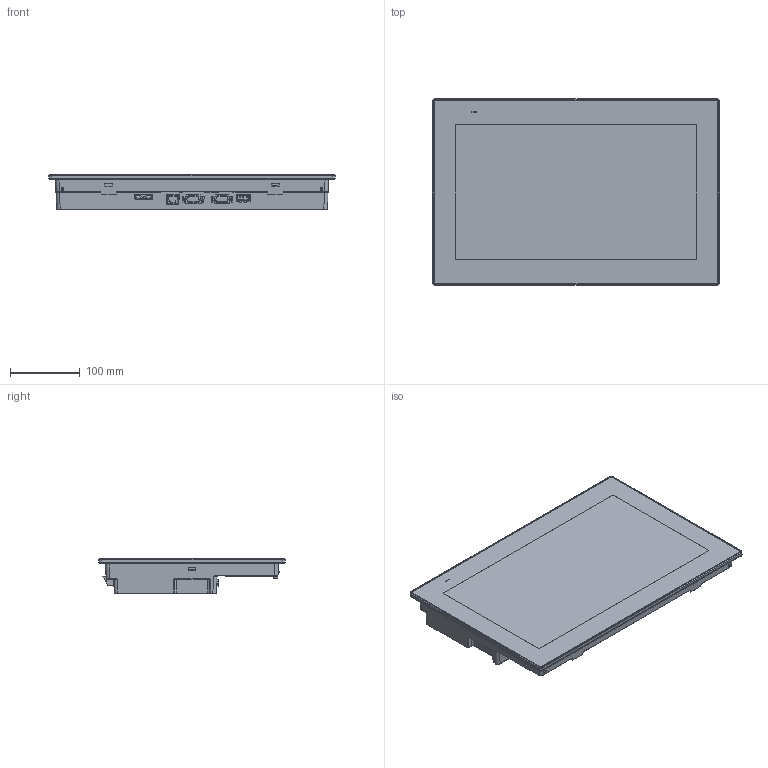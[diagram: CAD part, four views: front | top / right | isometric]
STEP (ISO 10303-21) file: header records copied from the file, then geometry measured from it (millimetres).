
FILE_DESCRIPTION (( 'STEP AP203' ), '1' );
FILE_NAME ('NEW-GXU-15inch-20200415_simpl.STEP', '2021-04-22T17:31:49', ( 'Polynotes' ), ( 'Hewlett-Packard Company' ), 'SwSTEP 2.0', 'SolidWorks 2017', '' );
FILE_SCHEMA (( 'CONFIG_CONTROL_DESIGN' ));
Length unit declared in the file: millimetre
Products named in the file (1): NEW-GXU-15inch-20200415_simpl
Bounding box: 412 x 268 x 50 mm (x, y, z)
Volume: 3902624.2 mm3; surface area: 296821.6 mm2
Topology: 11 solids, 11 shells, 1050 faces, 2581 edges, 1598 vertices
Faces by surface type: plane 519, cylinder 353, bspline 143, cone 35
Entity records: 42338 total; most frequent: CARTESIAN_POINT 19965, ORIENTED_EDGE 5154, DIRECTION 3693, EDGE_CURVE 2577, VERTEX_POINT 1598, VECTOR 1391, LINE 1391, AXIS2_PLACEMENT_3D 1151
